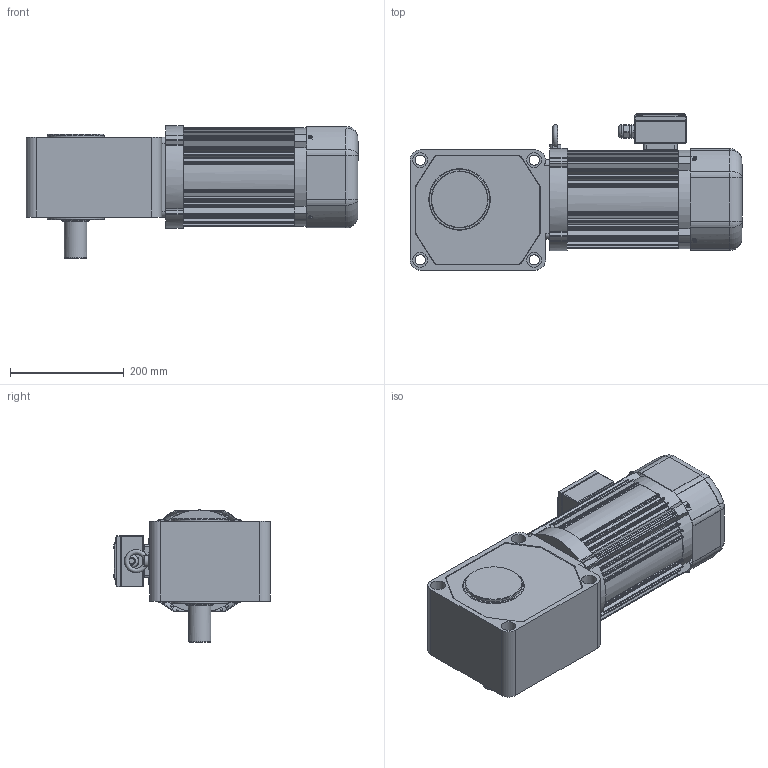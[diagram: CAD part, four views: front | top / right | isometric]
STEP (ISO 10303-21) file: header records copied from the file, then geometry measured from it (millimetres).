
FILE_DESCRIPTION(/* description */ (''),/* implementation_level */ '2;1');
FILE_NAME(/* name */ 'Z:\동력 3D 파일\PCS40L_1.5kW_Brake_3D.stp',/* time_stamp */ '2021-11-09T13:41:44+09:00',/* author */ ('jaebok'),/* organization */ (''),/* preprocessor_version */ 'ST-DEVELOPER v18.1',/* originating_system */ 'Autodesk Inventor 2022',/* authorisation */ '');
FILE_SCHEMA (('AUTOMOTIVE_DESIGN { 1 0 10303 214 3 1 1 }'));
Length unit declared in the file: millimetre
Products named in the file (1): 부품75
Bounding box: 582.8 x 274.5 x 232 mm (x, y, z)
Volume: 10049085.5 mm3; surface area: 903180.1 mm2
Topology: 1 solids, 25 shells, 1361 faces, 3622 edges, 2341 vertices
Faces by surface type: plane 660, cylinder 584, cone 52, torus 35, sphere 20, bspline 10
Full cylindrical faces by diameter (mm): 3.25 x1, 3.6 x4, 4 x22, 4.917 x4, 5 x13, 6 x5, 6.647 x1, 7 x12, 8 x1, 8.8 x1, 10 x3, 12.5 x1, 15 x1, 18 x4, 20 x2, 21 x1, 23.6 x1, 25 x2, 26 x4, 36 x1, 40 x1, 100 x2, 156 x2, 160 x2, 161 x1, 165 x1, 165.4 x2, 168 x4
Entity records: 45218 total; most frequent: CARTESIAN_POINT 9273, DIRECTION 7528, ORIENTED_EDGE 7184, EDGE_CURVE 3592, AXIS2_PLACEMENT_3D 2796, VERTEX_POINT 2340, LINE 1936, VECTOR 1936
